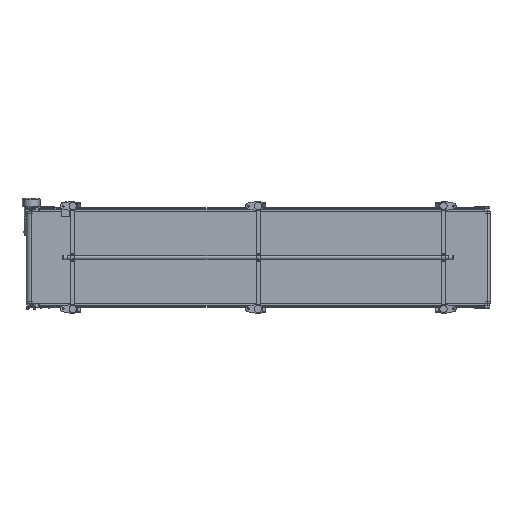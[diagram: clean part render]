
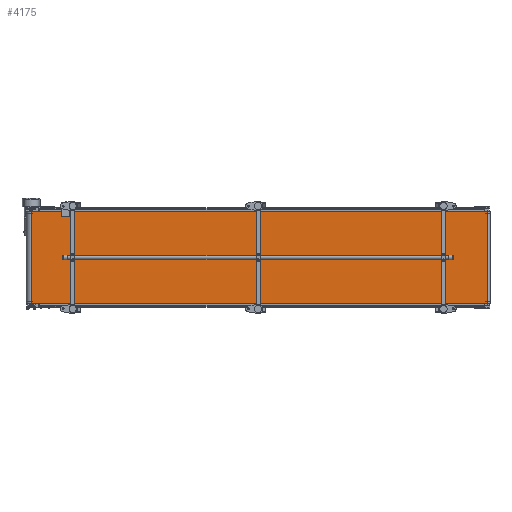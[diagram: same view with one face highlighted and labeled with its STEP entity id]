
A CAD part, front view. The second image highlights one B-rep face of the part: STEP entity #4175.
In plain terms, the highlighted planar face has unit normal (0.009, -1, 0).
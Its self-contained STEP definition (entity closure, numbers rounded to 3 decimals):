
#4175=ADVANCED_FACE('',(#27734),#27733,.F.);
#27733=PLANE('',#43030);
#27734=FACE_OUTER_BOUND('',#43031,.T.);
#43027=CARTESIAN_POINT('',(2993.164,-33.609,-310.));
#43028=DIRECTION('',(-0.009,1.,0.));
#43029=DIRECTION('',(-1.,-0.009,0.));
#43030=AXIS2_PLACEMENT_3D('',#43027,#43028,#43029);
#43031=EDGE_LOOP('',(#55513,#55514,#55515,#55516));
#55513=ORIENTED_EDGE('',*,*,#62282,.T.);
#55514=ORIENTED_EDGE('',*,*,#62289,.F.);
#55515=ORIENTED_EDGE('',*,*,#62276,.F.);
#55516=ORIENTED_EDGE('',*,*,#62290,.T.);
#62276=EDGE_CURVE('',#100853,#100838,#100860,.T.);
#62282=EDGE_CURVE('',#100902,#100894,#100903,.T.);
#62289=EDGE_CURVE('',#100838,#100894,#100950,.T.);
#62290=EDGE_CURVE('',#100853,#100902,#100956,.T.);
#100838=VERTEX_POINT('',#127376);
#100853=VERTEX_POINT('',#127386);
#100860=LINE('',#127391,#127392);
#100894=VERTEX_POINT('',#127412);
#100902=VERTEX_POINT('',#127418);
#100903=LINE('',#127419,#127420);
#100950=LINE('',#127448,#127449);
#100956=LINE('',#127451,#127452);
#127376=CARTESIAN_POINT('',(2983.165,-33.699,300.));
#127386=CARTESIAN_POINT('',(30.785,-60.449,300.));
#127391=CARTESIAN_POINT('',(30.785,-60.449,300.));
#127392=VECTOR('',#127393,2952.501);
#127393=DIRECTION('',(1.,0.009,0.));
#127412=CARTESIAN_POINT('',(2983.165,-33.699,-300.));
#127418=CARTESIAN_POINT('',(30.785,-60.449,-300.));
#127419=CARTESIAN_POINT('',(30.785,-60.449,-300.));
#127420=VECTOR('',#127421,2952.501);
#127421=DIRECTION('',(1.,0.009,0.));
#127448=CARTESIAN_POINT('',(2983.165,-33.699,300.));
#127449=VECTOR('',#127450,600.);
#127450=DIRECTION('',(0.,0.,-1.));
#127451=CARTESIAN_POINT('',(30.785,-60.449,300.));
#127452=VECTOR('',#127453,600.);
#127453=DIRECTION('',(0.,0.,-1.));
